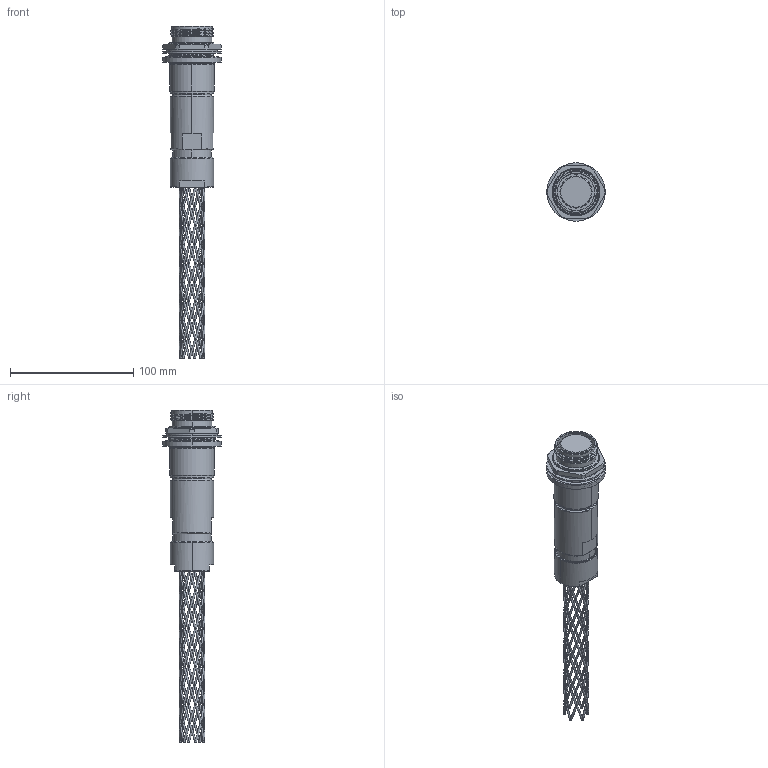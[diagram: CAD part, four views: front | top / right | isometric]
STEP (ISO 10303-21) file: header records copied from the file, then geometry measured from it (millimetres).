
FILE_DESCRIPTION (( 'STEP AP214' ), '1' );
FILE_NAME ('QLINK-RJTX-21XX-GXXX.STEP', '2025-09-30T22:24:47', ( '' ), ( '' ), 'SwSTEP 2.0', 'SolidWorks 2024', '' );
FILE_SCHEMA (( 'AUTOMOTIVE_DESIGN' ));
Length unit declared in the file: inch
Products named in the file (1): QLINK-RJTX-21XX-GXXX
Bounding box: 47.37 x 47.37 x 268.99 mm (x, y, z)
Volume: 129251.4 mm3; surface area: 36031.5 mm2
Topology: 2 solids, 2 shells, 450 faces, 1269 edges, 728 vertices
Faces by surface type: bspline 251, cylinder 82, plane 58, cone 37, torus 22
Entity records: 125499 total; most frequent: CARTESIAN_POINT 116809, ORIENTED_EDGE 2538, EDGE_CURVE 1269, DIRECTION 1118, VERTEX_POINT 728, AXIS2_PLACEMENT_3D 480, EDGE_LOOP 473, FACE_OUTER_BOUND 450
